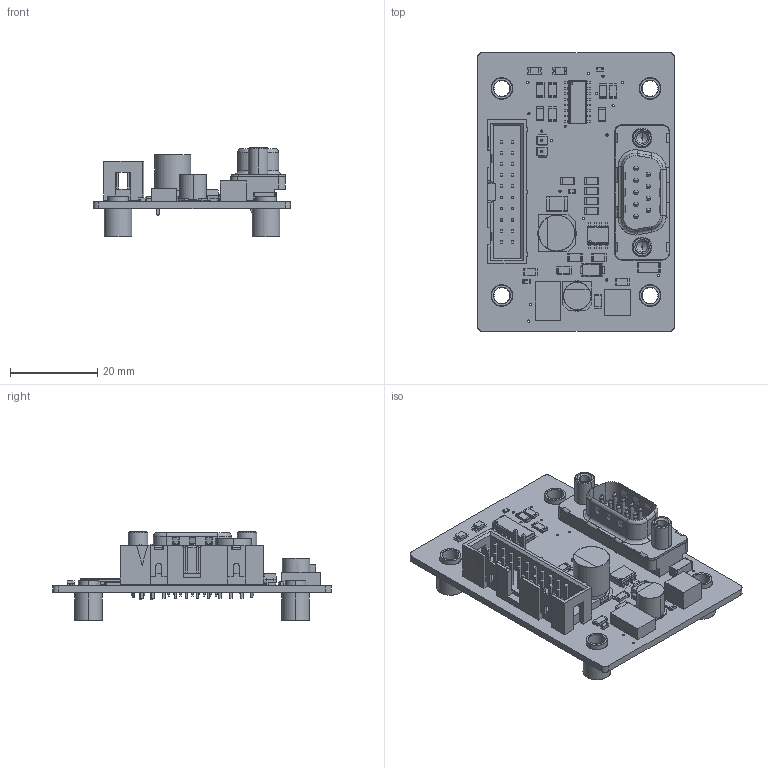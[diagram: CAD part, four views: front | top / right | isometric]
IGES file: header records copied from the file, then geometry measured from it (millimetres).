
Start section: SolidWorks IGES file using analytic representation for surfaces
Global section: file name: C:\TeknicPDM\Drives\ClearCore & CCIO\Customer Drawings and Files\ClearCore Customer Models\CL-ENCDR-DFIN.IGS; native system: SolidWorks 2020; preprocessor: SolidWorks 2020; author: mike_berezny; date: 210201.114351; units: inch
Bounding box: 45.21 x 63.98 x 20.44 mm (x, y, z)
Surface area: 15056.9 mm2 (no closed solid volume)
Topology: 0 solids, 0 shells, 3200 faces, 21601 edges, 21509 vertices
Faces by surface type: bspline 2300, revolution 900
